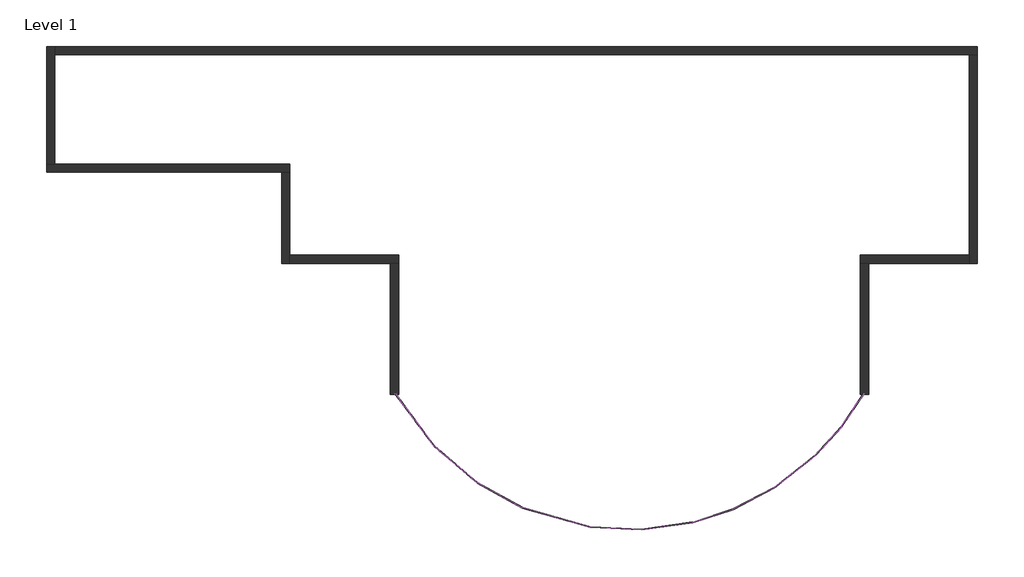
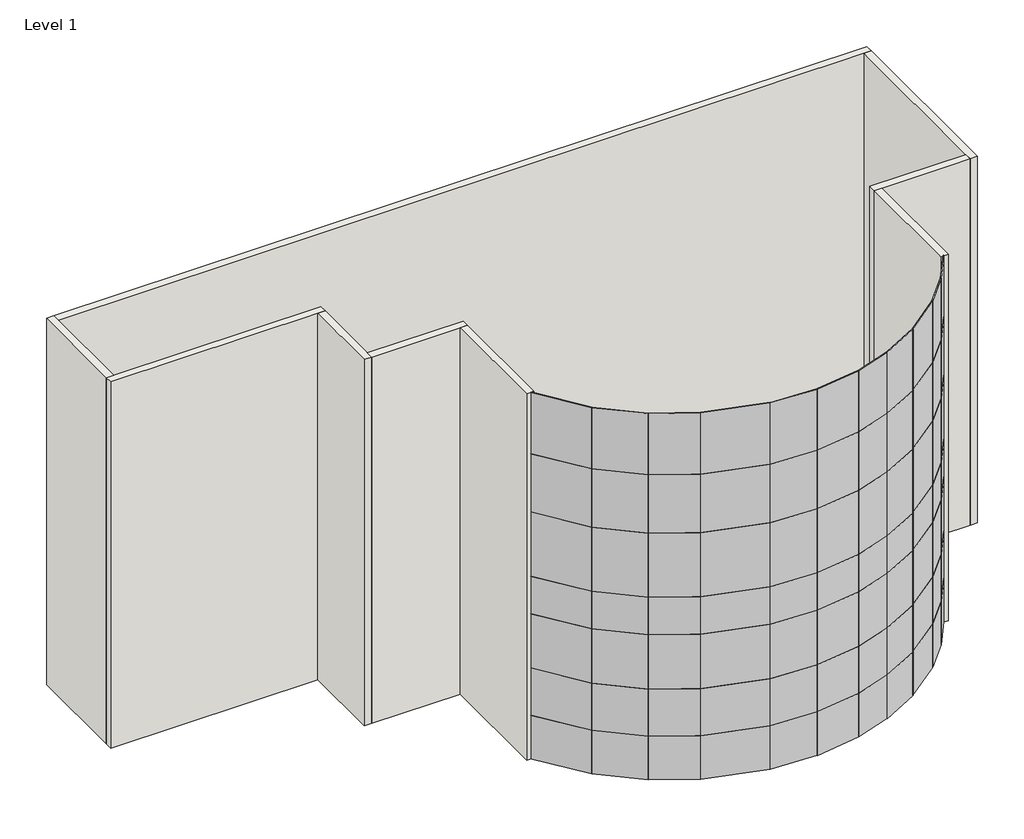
# One storey: 77 plates, 9 walls.
"""IFC4 building model written with IfcOpenShell, lengths in millimetres."""

from ifc_helpers import new_model, si_unit, origin, origin_with_axes, place, context, project, spatial, polyline, outline, extrude, faceted_brep, transform, mapped, element, save
from components import system_panel_glazed_bb45afea, system_panel_glazed_f9cea265, system_panel_glazed_833e7854, system_panel_glazed_2fae776c, system_panel_glazed_bf2f9530, system_panel_glazed_f9ccef27, system_panel_glazed_bc2bb54a, system_panel_glazed_4c331233, system_panel_glazed_691c7578, system_panel_glazed_ef6396a6, system_panel_glazed_fbe8b064, system_panel_glazed_546f7082, system_panel_glazed_d335b26f, system_panel_glazed_3dcc306c, system_panel_glazed_ff5a1f4d, system_panel_glazed_1fb8dec9, system_panel_glazed_2a972b71, system_panel_glazed_399a5d6c, system_panel_glazed_5628729f, system_panel_glazed_b06318d8, system_panel_glazed_cbd1a98d, system_panel_glazed_c423431e, system_panel_glazed_89920602, system_panel_glazed_b366bfc2, system_panel_glazed_a79b9b6a, system_panel_glazed_b8570ad5, system_panel_glazed_4d1e0b4b, system_panel_glazed_00ad768a, system_panel_glazed_f666e3da, system_panel_glazed_8b8a1f57, system_panel_glazed_1889c2f3, system_panel_glazed_4097dd18, system_panel_glazed_4036181e, system_panel_glazed_9c5fd395, system_panel_glazed_11f76c51, system_panel_glazed_d1cd8156, system_panel_glazed_77f58310, system_panel_glazed_f9e88ba5, system_panel_glazed_67a76392, system_panel_glazed_b6d08e3c, system_panel_glazed_613470c2, system_panel_glazed_6823b24f, system_panel_glazed_34dd8236, system_panel_glazed_7db8ac78, system_panel_glazed_592a9e6c, system_panel_glazed_ab2ade44, system_panel_glazed_aa5f2bbc, system_panel_glazed_d557d0fe, system_panel_glazed_53bade5f

model = new_model("IFC4")

# Units and contexts
model_context = context("Model", 3, world=origin())
ifc_project = project(units=[si_unit("LENGTHUNIT", "METRE", prefix="MILLI")], contexts=[model_context])

# Site, building, storey
site = spatial("IfcSite", under=ifc_project)
building = spatial("IfcBuilding", under=site)
storey = spatial("IfcBuildingStorey", under=building, Name="Level 1", Elevation=0.0)

# Plates
placement = place(None, origin())
system_panel_glazed_shape = system_panel_glazed_bb45afea(model_context)
element("IfcPlate", 1, ObjectType="System Panel : Glazed", at=placement, inside=storey, context=model_context, shape_type="MappedRepresentation", body=[
    mapped(system_panel_glazed_shape, transform((-7338.8724307, 2313.0424257, 0.0), x_axis=(0.5960257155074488, -0.8029653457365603, 0.0), y_axis=(0.8029653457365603, 0.5960257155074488, 0.0), z_axis=(0.0, 0.0, 1.0))),
])
system_panel_glazed_2_shape = system_panel_glazed_f9cea265(model_context)
element("IfcPlate", 2, ObjectType="System Panel : Glazed", at=placement, inside=storey, context=model_context, shape_type="MappedRepresentation", body=[
    mapped(system_panel_glazed_2_shape, transform((-5898.315456, 745.668343, 0.0), x_axis=(0.7613775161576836, -0.6483087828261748, 0.0), y_axis=(0.6483087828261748, 0.7613775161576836, 0.0), z_axis=(0.0, 0.0, 1.0))),
])
system_panel_glazed_3_shape = system_panel_glazed_833e7854(model_context)
element("IfcPlate", 3, ObjectType="System Panel : Glazed", at=placement, inside=storey, context=model_context, shape_type="MappedRepresentation", body=[
    mapped(system_panel_glazed_3_shape, transform((-4351.192206, -334.1904169, 0.0), x_axis=(0.8753446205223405, -0.4834995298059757, 0.0), y_axis=(0.4834995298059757, 0.8753446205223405, 0.0), z_axis=(0.0, 0.0, 1.0))),
])
element("IfcPlate", 4, ObjectType="System Panel : Glazed", at=placement, inside=storey, context=model_context, shape_type="MappedRepresentation", body=[
    mapped(system_panel_glazed_3_shape, transform((-275.5873757, -1496.2500687, 0.0), x_axis=(0.9987067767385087, -0.05084067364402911, 0.0), y_axis=(0.05084067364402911, 0.9987067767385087, 0.0), z_axis=(0.0, 0.0, 1.0))),
])
element("IfcPlate", 5, ObjectType="System Panel : Glazed", at=placement, inside=storey, context=model_context, shape_type="MappedRepresentation", body=[
    mapped(system_panel_glazed_3_shape, transform((1528.2895781, -1414.7848699, 0.0), x_axis=(0.9900585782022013, 0.14065564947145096, 0.0), y_axis=(-0.14065564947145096, 0.9900585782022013, 0.0), z_axis=(0.0, 0.0, 1.0))),
])
element("IfcPlate", 6, ObjectType="System Panel : Glazed", at=placement, inside=storey, context=model_context, shape_type="MappedRepresentation", body=[
    mapped(system_panel_glazed_3_shape, transform((6013.9065485, 497.1779435, 0.0), x_axis=(0.7870880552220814, 0.6168406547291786, 0.0), y_axis=(-0.6168406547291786, 0.7870880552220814, 0.0), z_axis=(0.0, 0.0, 1.0))),
])
system_panel_glazed_4_shape = system_panel_glazed_2fae776c(model_context)
element("IfcPlate", 7, ObjectType="System Panel : Glazed", at=placement, inside=storey, context=model_context, shape_type="MappedRepresentation", body=[
    mapped(system_panel_glazed_4_shape, transform((-2369.3365998, -1111.4382978, 0.0), x_axis=(0.9616733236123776, -0.27419777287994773, 0.0), y_axis=(0.27419777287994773, 0.9616733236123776, 0.0), z_axis=(0.0, 0.0, 1.0))),
])
system_panel_glazed_5_shape = system_panel_glazed_bf2f9530(model_context)
element("IfcPlate", 8, ObjectType="System Panel : Glazed", at=placement, inside=storey, context=model_context, shape_type="MappedRepresentation", body=[
    mapped(system_panel_glazed_5_shape, transform((3132.1167468, -1056.7047118, 0.0), x_axis=(0.9505927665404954, 0.31044064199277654, 0.0), y_axis=(-0.31044064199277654, 0.9505927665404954, 0.0), z_axis=(0.0, 0.0, 1.0))),
])
system_panel_glazed_6_shape = system_panel_glazed_f9ccef27(model_context)
element("IfcPlate", 9, ObjectType="System Panel : Glazed", at=placement, inside=storey, context=model_context, shape_type="MappedRepresentation", body=[
    mapped(system_panel_glazed_6_shape, transform((4568.9593981, -444.2605963, 0.0), x_axis=(0.8863184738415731, 0.46307619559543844, 0.0), y_axis=(-0.46307619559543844, 0.8863184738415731, 0.0), z_axis=(0.0, 0.0, 1.0))),
])
system_panel_glazed_7_shape = system_panel_glazed_bc2bb54a(model_context)
element("IfcPlate", 10, ObjectType="System Panel : Glazed", at=placement, inside=storey, context=model_context, shape_type="MappedRepresentation", body=[
    mapped(system_panel_glazed_7_shape, transform((7194.2331387, 1570.9249341, 0.0), x_axis=(0.6718124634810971, 0.7407212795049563, 0.0), y_axis=(-0.7407212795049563, 0.6718124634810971, 0.0), z_axis=(0.0, 0.0, 1.0))),
])
element("IfcPlate", 11, ObjectType="System Panel : Glazed", at=placement, inside=storey, context=model_context, shape_type="MappedRepresentation", body=[
    mapped(system_panel_glazed_7_shape, transform((8046.7856586, 2662.1423978, 0.0), x_axis=(0.5561925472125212, 0.8310534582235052, 0.0), y_axis=(-0.8310534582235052, 0.5561925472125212, 0.0), z_axis=(0.0, 0.0, 1.0))),
])
system_panel_glazed_8_shape = system_panel_glazed_4c331233(model_context)
element("IfcPlate", 12, ObjectType="System Panel : Glazed", at=placement, inside=storey, context=model_context, shape_type="MappedRepresentation", body=[
    mapped(system_panel_glazed_8_shape, transform((-7338.8724307, 2313.0424257, 1828.8), x_axis=(0.5960257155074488, -0.8029653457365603, 0.0), y_axis=(0.8029653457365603, 0.5960257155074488, 0.0), z_axis=(0.0, 0.0, 1.0))),
])
system_panel_glazed_9_shape = system_panel_glazed_691c7578(model_context)
element("IfcPlate", 13, ObjectType="System Panel : Glazed", at=placement, inside=storey, context=model_context, shape_type="MappedRepresentation", body=[
    mapped(system_panel_glazed_9_shape, transform((-5898.315456, 745.668343, 1828.8), x_axis=(0.7613775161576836, -0.648308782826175, 0.0), y_axis=(0.648308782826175, 0.7613775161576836, 0.0), z_axis=(0.0, 0.0, 1.0))),
])
system_panel_glazed_10_shape = system_panel_glazed_ef6396a6(model_context)
element("IfcPlate", 14, ObjectType="System Panel : Glazed", at=placement, inside=storey, context=model_context, shape_type="MappedRepresentation", body=[
    mapped(system_panel_glazed_10_shape, transform((-4351.192206, -334.1904169, 1828.8), x_axis=(0.8753446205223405, -0.4834995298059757, 0.0), y_axis=(0.4834995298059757, 0.8753446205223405, 0.0), z_axis=(0.0, 0.0, 1.0))),
])
element("IfcPlate", 15, ObjectType="System Panel : Glazed", at=placement, inside=storey, context=model_context, shape_type="MappedRepresentation", body=[
    mapped(system_panel_glazed_10_shape, transform((-275.5873757, -1496.2500687, 1828.8), x_axis=(0.9987067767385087, -0.050840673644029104, 0.0), y_axis=(0.050840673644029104, 0.9987067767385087, 0.0), z_axis=(0.0, 0.0, 1.0))),
])
element("IfcPlate", 16, ObjectType="System Panel : Glazed", at=placement, inside=storey, context=model_context, shape_type="MappedRepresentation", body=[
    mapped(system_panel_glazed_10_shape, transform((1528.2895781, -1414.7848699, 1828.8), x_axis=(0.9900585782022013, 0.14065564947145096, 0.0), y_axis=(-0.14065564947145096, 0.9900585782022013, 0.0), z_axis=(0.0, 0.0, 1.0))),
])
element("IfcPlate", 17, ObjectType="System Panel : Glazed", at=placement, inside=storey, context=model_context, shape_type="MappedRepresentation", body=[
    mapped(system_panel_glazed_10_shape, transform((6013.9065485, 497.1779435, 1828.8), x_axis=(0.7870880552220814, 0.6168406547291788, 0.0), y_axis=(-0.6168406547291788, 0.7870880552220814, 0.0), z_axis=(0.0, 0.0, 1.0))),
])
system_panel_glazed_11_shape = system_panel_glazed_fbe8b064(model_context)
element("IfcPlate", 18, ObjectType="System Panel : Glazed", at=placement, inside=storey, context=model_context, shape_type="MappedRepresentation", body=[
    mapped(system_panel_glazed_11_shape, transform((-2369.3365998, -1111.4382978, 1828.8), x_axis=(0.9616733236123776, -0.27419777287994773, 0.0), y_axis=(0.27419777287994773, 0.9616733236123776, 0.0), z_axis=(0.0, 0.0, 1.0))),
])
system_panel_glazed_12_shape = system_panel_glazed_546f7082(model_context)
element("IfcPlate", 19, ObjectType="System Panel : Glazed", at=placement, inside=storey, context=model_context, shape_type="MappedRepresentation", body=[
    mapped(system_panel_glazed_12_shape, transform((3132.1167468, -1056.7047118, 1828.8), x_axis=(0.9505927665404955, 0.3104406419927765, 0.0), y_axis=(-0.3104406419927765, 0.9505927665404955, 0.0), z_axis=(0.0, 0.0, 1.0))),
])
system_panel_glazed_13_shape = system_panel_glazed_d335b26f(model_context)
element("IfcPlate", 20, ObjectType="System Panel : Glazed", at=placement, inside=storey, context=model_context, shape_type="MappedRepresentation", body=[
    mapped(system_panel_glazed_13_shape, transform((4568.9593981, -444.2605963, 1828.8), x_axis=(0.8863184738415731, 0.4630761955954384, 0.0), y_axis=(-0.4630761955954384, 0.8863184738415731, 0.0), z_axis=(0.0, 0.0, 1.0))),
])
system_panel_glazed_14_shape = system_panel_glazed_3dcc306c(model_context)
element("IfcPlate", 21, ObjectType="System Panel : Glazed", at=placement, inside=storey, context=model_context, shape_type="MappedRepresentation", body=[
    mapped(system_panel_glazed_14_shape, transform((7194.2331387, 1570.9249341, 1828.8), x_axis=(0.6718124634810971, 0.7407212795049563, 0.0), y_axis=(-0.7407212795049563, 0.6718124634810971, 0.0), z_axis=(0.0, 0.0, 1.0))),
])
element("IfcPlate", 22, ObjectType="System Panel : Glazed", at=placement, inside=storey, context=model_context, shape_type="MappedRepresentation", body=[
    mapped(system_panel_glazed_14_shape, transform((8046.7856586, 2662.1423978, 1828.8), x_axis=(0.5561925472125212, 0.8310534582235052, 0.0), y_axis=(-0.8310534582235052, 0.5561925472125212, 0.0), z_axis=(0.0, 0.0, 1.0))),
])
system_panel_glazed_15_shape = system_panel_glazed_ff5a1f4d(model_context)
element("IfcPlate", 23, ObjectType="System Panel : Glazed", at=placement, inside=storey, context=model_context, shape_type="MappedRepresentation", body=[
    mapped(system_panel_glazed_15_shape, transform((-7338.8724307, 2313.0424257, 3810.0), x_axis=(0.5960257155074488, -0.8029653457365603, 0.0), y_axis=(0.8029653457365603, 0.5960257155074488, 0.0), z_axis=(0.0, 0.0, 1.0))),
])
system_panel_glazed_16_shape = system_panel_glazed_1fb8dec9(model_context)
element("IfcPlate", 24, ObjectType="System Panel : Glazed", at=placement, inside=storey, context=model_context, shape_type="MappedRepresentation", body=[
    mapped(system_panel_glazed_16_shape, transform((-5898.315456, 745.668343, 3810.0), x_axis=(0.7613775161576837, -0.6483087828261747, 0.0), y_axis=(0.6483087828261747, 0.7613775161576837, 0.0), z_axis=(0.0, 0.0, 1.0))),
])
system_panel_glazed_17_shape = system_panel_glazed_2a972b71(model_context)
element("IfcPlate", 25, ObjectType="System Panel : Glazed", at=placement, inside=storey, context=model_context, shape_type="MappedRepresentation", body=[
    mapped(system_panel_glazed_17_shape, transform((-4351.192206, -334.1904169, 3810.0), x_axis=(0.8753446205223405, -0.48349952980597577, 0.0), y_axis=(0.48349952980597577, 0.8753446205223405, 0.0), z_axis=(0.0, 0.0, 1.0))),
])
element("IfcPlate", 26, ObjectType="System Panel : Glazed", at=placement, inside=storey, context=model_context, shape_type="MappedRepresentation", body=[
    mapped(system_panel_glazed_17_shape, transform((-275.5873757, -1496.2500687, 3810.0), x_axis=(0.9987067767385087, -0.05084067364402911, 0.0), y_axis=(0.05084067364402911, 0.9987067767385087, 0.0), z_axis=(0.0, 0.0, 1.0))),
])
element("IfcPlate", 27, ObjectType="System Panel : Glazed", at=placement, inside=storey, context=model_context, shape_type="MappedRepresentation", body=[
    mapped(system_panel_glazed_17_shape, transform((1528.2895781, -1414.7848699, 3810.0), x_axis=(0.9900585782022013, 0.14065564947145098, 0.0), y_axis=(-0.14065564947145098, 0.9900585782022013, 0.0), z_axis=(0.0, 0.0, 1.0))),
])
element("IfcPlate", 28, ObjectType="System Panel : Glazed", at=placement, inside=storey, context=model_context, shape_type="MappedRepresentation", body=[
    mapped(system_panel_glazed_17_shape, transform((6013.9065485, 497.1779435, 3810.0), x_axis=(0.7870880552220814, 0.6168406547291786, 0.0), y_axis=(-0.6168406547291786, 0.7870880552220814, 0.0), z_axis=(0.0, 0.0, 1.0))),
])
system_panel_glazed_18_shape = system_panel_glazed_399a5d6c(model_context)
element("IfcPlate", 29, ObjectType="System Panel : Glazed", at=placement, inside=storey, context=model_context, shape_type="MappedRepresentation", body=[
    mapped(system_panel_glazed_18_shape, transform((-2369.3365998, -1111.4382978, 3810.0), x_axis=(0.9616733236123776, -0.27419777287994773, 0.0), y_axis=(0.27419777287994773, 0.9616733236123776, 0.0), z_axis=(0.0, 0.0, 1.0))),
])
system_panel_glazed_19_shape = system_panel_glazed_5628729f(model_context)
element("IfcPlate", 30, ObjectType="System Panel : Glazed", at=placement, inside=storey, context=model_context, shape_type="MappedRepresentation", body=[
    mapped(system_panel_glazed_19_shape, transform((3132.1167468, -1056.7047118, 3810.0), x_axis=(0.9505927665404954, 0.3104406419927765, 0.0), y_axis=(-0.3104406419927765, 0.9505927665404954, 0.0), z_axis=(0.0, 0.0, 1.0))),
])
system_panel_glazed_20_shape = system_panel_glazed_b06318d8(model_context)
element("IfcPlate", 31, ObjectType="System Panel : Glazed", at=placement, inside=storey, context=model_context, shape_type="MappedRepresentation", body=[
    mapped(system_panel_glazed_20_shape, transform((4568.9593981, -444.2605963, 3810.0), x_axis=(0.8863184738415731, 0.46307619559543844, 0.0), y_axis=(-0.46307619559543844, 0.8863184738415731, 0.0), z_axis=(0.0, 0.0, 1.0))),
])
system_panel_glazed_21_shape = system_panel_glazed_cbd1a98d(model_context)
element("IfcPlate", 32, ObjectType="System Panel : Glazed", at=placement, inside=storey, context=model_context, shape_type="MappedRepresentation", body=[
    mapped(system_panel_glazed_21_shape, transform((7194.2331387, 1570.9249341, 3810.0), x_axis=(0.6718124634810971, 0.7407212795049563, 0.0), y_axis=(-0.7407212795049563, 0.6718124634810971, 0.0), z_axis=(0.0, 0.0, 1.0))),
])
element("IfcPlate", 33, ObjectType="System Panel : Glazed", at=placement, inside=storey, context=model_context, shape_type="MappedRepresentation", body=[
    mapped(system_panel_glazed_21_shape, transform((8046.7856586, 2662.1423978, 3810.0), x_axis=(0.5561925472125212, 0.8310534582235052, 0.0), y_axis=(-0.8310534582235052, 0.5561925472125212, 0.0), z_axis=(0.0, 0.0, 1.0))),
])
system_panel_glazed_22_shape = system_panel_glazed_c423431e(model_context)
element("IfcPlate", 34, ObjectType="System Panel : Glazed", at=placement, inside=storey, context=model_context, shape_type="MappedRepresentation", body=[
    mapped(system_panel_glazed_22_shape, transform((-7338.8724307, 2313.0424257, 6096.0), x_axis=(0.5960257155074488, -0.8029653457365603, 0.0), y_axis=(0.8029653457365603, 0.5960257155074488, 0.0), z_axis=(0.0, 0.0, 1.0))),
])
system_panel_glazed_23_shape = system_panel_glazed_89920602(model_context)
element("IfcPlate", 35, ObjectType="System Panel : Glazed", at=placement, inside=storey, context=model_context, shape_type="MappedRepresentation", body=[
    mapped(system_panel_glazed_23_shape, transform((-5898.315456, 745.668343, 6096.0), x_axis=(0.7613775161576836, -0.6483087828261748, 0.0), y_axis=(0.6483087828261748, 0.7613775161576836, 0.0), z_axis=(0.0, 0.0, 1.0))),
])
system_panel_glazed_24_shape = system_panel_glazed_b366bfc2(model_context)
element("IfcPlate", 36, ObjectType="System Panel : Glazed", at=placement, inside=storey, context=model_context, shape_type="MappedRepresentation", body=[
    mapped(system_panel_glazed_24_shape, transform((-4351.192206, -334.1904169, 6096.0), x_axis=(0.8753446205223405, -0.4834995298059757, 0.0), y_axis=(0.4834995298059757, 0.8753446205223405, 0.0), z_axis=(0.0, 0.0, 1.0))),
])
element("IfcPlate", 37, ObjectType="System Panel : Glazed", at=placement, inside=storey, context=model_context, shape_type="MappedRepresentation", body=[
    mapped(system_panel_glazed_24_shape, transform((-275.5873757, -1496.2500687, 6096.0), x_axis=(0.9987067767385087, -0.050840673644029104, 0.0), y_axis=(0.050840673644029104, 0.9987067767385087, 0.0), z_axis=(0.0, 0.0, 1.0))),
])
element("IfcPlate", 38, ObjectType="System Panel : Glazed", at=placement, inside=storey, context=model_context, shape_type="MappedRepresentation", body=[
    mapped(system_panel_glazed_24_shape, transform((1528.2895781, -1414.7848699, 6096.0), x_axis=(0.9900585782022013, 0.14065564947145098, 0.0), y_axis=(-0.14065564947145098, 0.9900585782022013, 0.0), z_axis=(0.0, 0.0, 1.0))),
])
element("IfcPlate", 39, ObjectType="System Panel : Glazed", at=placement, inside=storey, context=model_context, shape_type="MappedRepresentation", body=[
    mapped(system_panel_glazed_24_shape, transform((6013.9065485, 497.1779435, 6096.0), x_axis=(0.7870880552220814, 0.6168406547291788, 0.0), y_axis=(-0.6168406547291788, 0.7870880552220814, 0.0), z_axis=(0.0, 0.0, 1.0))),
])
system_panel_glazed_25_shape = system_panel_glazed_a79b9b6a(model_context)
element("IfcPlate", 40, ObjectType="System Panel : Glazed", at=placement, inside=storey, context=model_context, shape_type="MappedRepresentation", body=[
    mapped(system_panel_glazed_25_shape, transform((-2369.3365998, -1111.4382978, 6096.0), x_axis=(0.9616733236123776, -0.27419777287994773, 0.0), y_axis=(0.27419777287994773, 0.9616733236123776, 0.0), z_axis=(0.0, 0.0, 1.0))),
])
system_panel_glazed_26_shape = system_panel_glazed_b8570ad5(model_context)
element("IfcPlate", 41, ObjectType="System Panel : Glazed", at=placement, inside=storey, context=model_context, shape_type="MappedRepresentation", body=[
    mapped(system_panel_glazed_26_shape, transform((3132.1167468, -1056.7047118, 6096.0), x_axis=(0.9505927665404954, 0.3104406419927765, 0.0), y_axis=(-0.3104406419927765, 0.9505927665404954, 0.0), z_axis=(0.0, 0.0, 1.0))),
])
system_panel_glazed_27_shape = system_panel_glazed_4d1e0b4b(model_context)
element("IfcPlate", 42, ObjectType="System Panel : Glazed", at=placement, inside=storey, context=model_context, shape_type="MappedRepresentation", body=[
    mapped(system_panel_glazed_27_shape, transform((4568.9593981, -444.2605963, 6096.0), x_axis=(0.8863184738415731, 0.46307619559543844, 0.0), y_axis=(-0.46307619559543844, 0.8863184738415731, 0.0), z_axis=(0.0, 0.0, 1.0))),
])
system_panel_glazed_28_shape = system_panel_glazed_00ad768a(model_context)
element("IfcPlate", 43, ObjectType="System Panel : Glazed", at=placement, inside=storey, context=model_context, shape_type="MappedRepresentation", body=[
    mapped(system_panel_glazed_28_shape, transform((7194.2331387, 1570.9249341, 6096.0), x_axis=(0.6718124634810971, 0.7407212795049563, 0.0), y_axis=(-0.7407212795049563, 0.6718124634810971, 0.0), z_axis=(0.0, 0.0, 1.0))),
])
element("IfcPlate", 44, ObjectType="System Panel : Glazed", at=placement, inside=storey, context=model_context, shape_type="MappedRepresentation", body=[
    mapped(system_panel_glazed_28_shape, transform((8046.7856586, 2662.1423978, 6096.0), x_axis=(0.5561925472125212, 0.8310534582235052, 0.0), y_axis=(-0.8310534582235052, 0.5561925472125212, 0.0), z_axis=(0.0, 0.0, 1.0))),
])
system_panel_glazed_29_shape = system_panel_glazed_f666e3da(model_context)
element("IfcPlate", 45, ObjectType="System Panel : Glazed", at=placement, inside=storey, context=model_context, shape_type="MappedRepresentation", body=[
    mapped(system_panel_glazed_29_shape, transform((-7338.8724307, 2313.0424257, 7670.8), x_axis=(0.5960257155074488, -0.8029653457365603, 0.0), y_axis=(0.8029653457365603, 0.5960257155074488, 0.0), z_axis=(0.0, 0.0, 1.0))),
])
system_panel_glazed_30_shape = system_panel_glazed_8b8a1f57(model_context)
element("IfcPlate", 46, ObjectType="System Panel : Glazed", at=placement, inside=storey, context=model_context, shape_type="MappedRepresentation", body=[
    mapped(system_panel_glazed_30_shape, transform((-5898.315456, 745.668343, 7670.8), x_axis=(0.7613775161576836, -0.6483087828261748, 0.0), y_axis=(0.6483087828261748, 0.7613775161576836, 0.0), z_axis=(0.0, 0.0, 1.0))),
])
system_panel_glazed_31_shape = system_panel_glazed_1889c2f3(model_context)
element("IfcPlate", 47, ObjectType="System Panel : Glazed", at=placement, inside=storey, context=model_context, shape_type="MappedRepresentation", body=[
    mapped(system_panel_glazed_31_shape, transform((-4351.192206, -334.1904169, 7670.8), x_axis=(0.8753446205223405, -0.4834995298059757, 0.0), y_axis=(0.4834995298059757, 0.8753446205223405, 0.0), z_axis=(0.0, 0.0, 1.0))),
])
element("IfcPlate", 48, ObjectType="System Panel : Glazed", at=placement, inside=storey, context=model_context, shape_type="MappedRepresentation", body=[
    mapped(system_panel_glazed_31_shape, transform((-275.5873757, -1496.2500687, 7670.8), x_axis=(0.9987067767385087, -0.050840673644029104, 0.0), y_axis=(0.050840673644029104, 0.9987067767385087, 0.0), z_axis=(0.0, 0.0, 1.0))),
])
element("IfcPlate", 49, ObjectType="System Panel : Glazed", at=placement, inside=storey, context=model_context, shape_type="MappedRepresentation", body=[
    mapped(system_panel_glazed_31_shape, transform((1528.2895781, -1414.7848699, 7670.8), x_axis=(0.9900585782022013, 0.140655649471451, 0.0), y_axis=(-0.140655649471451, 0.9900585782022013, 0.0), z_axis=(0.0, 0.0, 1.0))),
])
element("IfcPlate", 50, ObjectType="System Panel : Glazed", at=placement, inside=storey, context=model_context, shape_type="MappedRepresentation", body=[
    mapped(system_panel_glazed_31_shape, transform((6013.9065485, 497.1779435, 7670.8), x_axis=(0.7870880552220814, 0.6168406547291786, 0.0), y_axis=(-0.6168406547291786, 0.7870880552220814, 0.0), z_axis=(0.0, 0.0, 1.0))),
])
system_panel_glazed_32_shape = system_panel_glazed_4097dd18(model_context)
element("IfcPlate", 51, ObjectType="System Panel : Glazed", at=placement, inside=storey, context=model_context, shape_type="MappedRepresentation", body=[
    mapped(system_panel_glazed_32_shape, transform((-2369.3365998, -1111.4382978, 7670.8), x_axis=(0.9616733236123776, -0.27419777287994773, 0.0), y_axis=(0.27419777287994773, 0.9616733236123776, 0.0), z_axis=(0.0, 0.0, 1.0))),
])
system_panel_glazed_33_shape = system_panel_glazed_4036181e(model_context)
element("IfcPlate", 52, ObjectType="System Panel : Glazed", at=placement, inside=storey, context=model_context, shape_type="MappedRepresentation", body=[
    mapped(system_panel_glazed_33_shape, transform((3132.1167468, -1056.7047118, 7670.8), x_axis=(0.9505927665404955, 0.3104406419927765, 0.0), y_axis=(-0.3104406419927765, 0.9505927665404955, 0.0), z_axis=(0.0, 0.0, 1.0))),
])
system_panel_glazed_34_shape = system_panel_glazed_9c5fd395(model_context)
element("IfcPlate", 53, ObjectType="System Panel : Glazed", at=placement, inside=storey, context=model_context, shape_type="MappedRepresentation", body=[
    mapped(system_panel_glazed_34_shape, transform((4568.9593981, -444.2605963, 7670.8), x_axis=(0.8863184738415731, 0.46307619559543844, 0.0), y_axis=(-0.46307619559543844, 0.8863184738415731, 0.0), z_axis=(0.0, 0.0, 1.0))),
])
system_panel_glazed_35_shape = system_panel_glazed_11f76c51(model_context)
element("IfcPlate", 54, ObjectType="System Panel : Glazed", at=placement, inside=storey, context=model_context, shape_type="MappedRepresentation", body=[
    mapped(system_panel_glazed_35_shape, transform((7194.2331387, 1570.9249341, 7670.8), x_axis=(0.6718124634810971, 0.7407212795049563, 0.0), y_axis=(-0.7407212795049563, 0.6718124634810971, 0.0), z_axis=(0.0, 0.0, 1.0))),
])
element("IfcPlate", 55, ObjectType="System Panel : Glazed", at=placement, inside=storey, context=model_context, shape_type="MappedRepresentation", body=[
    mapped(system_panel_glazed_35_shape, transform((8046.7856586, 2662.1423978, 7670.8), x_axis=(0.5561925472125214, 0.8310534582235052, 0.0), y_axis=(-0.8310534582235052, 0.5561925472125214, 0.0), z_axis=(0.0, 0.0, 1.0))),
])
system_panel_glazed_36_shape = system_panel_glazed_d1cd8156(model_context)
element("IfcPlate", 56, ObjectType="System Panel : Glazed", at=placement, inside=storey, context=model_context, shape_type="MappedRepresentation", body=[
    mapped(system_panel_glazed_36_shape, transform((-7338.8724307, 2313.0424257, 10363.2), x_axis=(0.5960257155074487, -0.8029653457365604, 0.0), y_axis=(0.8029653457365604, 0.5960257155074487, 0.0), z_axis=(0.0, 0.0, 1.0))),
])
system_panel_glazed_37_shape = system_panel_glazed_77f58310(model_context)
element("IfcPlate", 57, ObjectType="System Panel : Glazed", at=placement, inside=storey, context=model_context, shape_type="MappedRepresentation", body=[
    mapped(system_panel_glazed_37_shape, transform((-5898.315456, 745.668343, 10363.2), x_axis=(0.7613775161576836, -0.6483087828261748, 0.0), y_axis=(0.6483087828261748, 0.7613775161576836, 0.0), z_axis=(0.0, 0.0, 1.0))),
])
system_panel_glazed_38_shape = system_panel_glazed_f9e88ba5(model_context)
element("IfcPlate", 58, ObjectType="System Panel : Glazed", at=placement, inside=storey, context=model_context, shape_type="MappedRepresentation", body=[
    mapped(system_panel_glazed_38_shape, transform((-4351.192206, -334.1904169, 10363.2), x_axis=(0.8753446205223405, -0.48349952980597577, 0.0), y_axis=(0.48349952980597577, 0.8753446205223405, 0.0), z_axis=(0.0, 0.0, 1.0))),
])
element("IfcPlate", 59, ObjectType="System Panel : Glazed", at=placement, inside=storey, context=model_context, shape_type="MappedRepresentation", body=[
    mapped(system_panel_glazed_38_shape, transform((-275.5873757, -1496.2500687, 10363.2), x_axis=(0.9987067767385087, -0.05084067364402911, 0.0), y_axis=(0.05084067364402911, 0.9987067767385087, 0.0), z_axis=(0.0, 0.0, 1.0))),
])
element("IfcPlate", 60, ObjectType="System Panel : Glazed", at=placement, inside=storey, context=model_context, shape_type="MappedRepresentation", body=[
    mapped(system_panel_glazed_38_shape, transform((1528.2895781, -1414.7848699, 10363.2), x_axis=(0.9900585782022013, 0.14065564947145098, 0.0), y_axis=(-0.14065564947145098, 0.9900585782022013, 0.0), z_axis=(0.0, 0.0, 1.0))),
])
element("IfcPlate", 61, ObjectType="System Panel : Glazed", at=placement, inside=storey, context=model_context, shape_type="MappedRepresentation", body=[
    mapped(system_panel_glazed_38_shape, transform((6013.9065485, 497.1779435, 10363.2), x_axis=(0.7870880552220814, 0.6168406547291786, 0.0), y_axis=(-0.6168406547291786, 0.7870880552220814, 0.0), z_axis=(0.0, 0.0, 1.0))),
])
system_panel_glazed_39_shape = system_panel_glazed_67a76392(model_context)
element("IfcPlate", 62, ObjectType="System Panel : Glazed", at=placement, inside=storey, context=model_context, shape_type="MappedRepresentation", body=[
    mapped(system_panel_glazed_39_shape, transform((-2369.3365998, -1111.4382978, 10363.2), x_axis=(0.9616733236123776, -0.27419777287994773, 0.0), y_axis=(0.27419777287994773, 0.9616733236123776, 0.0), z_axis=(0.0, 0.0, 1.0))),
])
system_panel_glazed_40_shape = system_panel_glazed_b6d08e3c(model_context)
element("IfcPlate", 63, ObjectType="System Panel : Glazed", at=placement, inside=storey, context=model_context, shape_type="MappedRepresentation", body=[
    mapped(system_panel_glazed_40_shape, transform((3132.1167468, -1056.7047118, 10363.2), x_axis=(0.9505927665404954, 0.3104406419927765, 0.0), y_axis=(-0.3104406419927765, 0.9505927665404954, 0.0), z_axis=(0.0, 0.0, 1.0))),
])
system_panel_glazed_41_shape = system_panel_glazed_613470c2(model_context)
element("IfcPlate", 64, ObjectType="System Panel : Glazed", at=placement, inside=storey, context=model_context, shape_type="MappedRepresentation", body=[
    mapped(system_panel_glazed_41_shape, transform((4568.9593981, -444.2605963, 10363.2), x_axis=(0.8863184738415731, 0.46307619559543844, 0.0), y_axis=(-0.46307619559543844, 0.8863184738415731, 0.0), z_axis=(0.0, 0.0, 1.0))),
])
system_panel_glazed_42_shape = system_panel_glazed_6823b24f(model_context)
element("IfcPlate", 65, ObjectType="System Panel : Glazed", at=placement, inside=storey, context=model_context, shape_type="MappedRepresentation", body=[
    mapped(system_panel_glazed_42_shape, transform((7194.2331387, 1570.9249341, 10363.2), x_axis=(0.6718124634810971, 0.7407212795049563, 0.0), y_axis=(-0.7407212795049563, 0.6718124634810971, 0.0), z_axis=(0.0, 0.0, 1.0))),
])
element("IfcPlate", 66, ObjectType="System Panel : Glazed", at=placement, inside=storey, context=model_context, shape_type="MappedRepresentation", body=[
    mapped(system_panel_glazed_42_shape, transform((8046.7856586, 2662.1423978, 10363.2), x_axis=(0.5561925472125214, 0.8310534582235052, 0.0), y_axis=(-0.8310534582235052, 0.5561925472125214, 0.0), z_axis=(0.0, 0.0, 1.0))),
])
system_panel_glazed_43_shape = system_panel_glazed_34dd8236(model_context)
element("IfcPlate", 67, ObjectType="System Panel : Glazed", at=placement, inside=storey, context=model_context, shape_type="MappedRepresentation", body=[
    mapped(system_panel_glazed_43_shape, transform((-7338.8724307, 2313.0424257, 12818.5333333), x_axis=(0.5960257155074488, -0.8029653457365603, 0.0), y_axis=(0.8029653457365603, 0.5960257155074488, 0.0), z_axis=(0.0, 0.0, 1.0))),
])
system_panel_glazed_44_shape = system_panel_glazed_7db8ac78(model_context)
element("IfcPlate", 68, ObjectType="System Panel : Glazed", at=placement, inside=storey, context=model_context, shape_type="MappedRepresentation", body=[
    mapped(system_panel_glazed_44_shape, transform((-5898.315456, 745.668343, 12818.5333333), x_axis=(0.7613775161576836, -0.6483087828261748, 0.0), y_axis=(0.6483087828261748, 0.7613775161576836, 0.0), z_axis=(0.0, 0.0, 1.0))),
])
system_panel_glazed_45_shape = system_panel_glazed_592a9e6c(model_context)
element("IfcPlate", 69, ObjectType="System Panel : Glazed", at=placement, inside=storey, context=model_context, shape_type="MappedRepresentation", body=[
    mapped(system_panel_glazed_45_shape, transform((-4351.192206, -334.1904169, 12818.5333333), x_axis=(0.8753446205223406, -0.4834995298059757, 0.0), y_axis=(0.4834995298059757, 0.8753446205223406, 0.0), z_axis=(0.0, 0.0, 1.0))),
])
element("IfcPlate", 70, ObjectType="System Panel : Glazed", at=placement, inside=storey, context=model_context, shape_type="MappedRepresentation", body=[
    mapped(system_panel_glazed_45_shape, transform((-275.5873757, -1496.2500687, 12818.5333333), x_axis=(0.9987067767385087, -0.05084067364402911, 0.0), y_axis=(0.05084067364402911, 0.9987067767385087, 0.0), z_axis=(0.0, 0.0, 1.0))),
])
element("IfcPlate", 71, ObjectType="System Panel : Glazed", at=placement, inside=storey, context=model_context, shape_type="MappedRepresentation", body=[
    mapped(system_panel_glazed_45_shape, transform((1528.2895781, -1414.7848699, 12818.5333333), x_axis=(0.9900585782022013, 0.14065564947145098, 0.0), y_axis=(-0.14065564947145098, 0.9900585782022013, 0.0), z_axis=(0.0, 0.0, 1.0))),
])
element("IfcPlate", 72, ObjectType="System Panel : Glazed", at=placement, inside=storey, context=model_context, shape_type="MappedRepresentation", body=[
    mapped(system_panel_glazed_45_shape, transform((6013.9065485, 497.1779435, 12818.5333333), x_axis=(0.7870880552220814, 0.6168406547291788, 0.0), y_axis=(-0.6168406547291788, 0.7870880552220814, 0.0), z_axis=(0.0, 0.0, 1.0))),
])
system_panel_glazed_46_shape = system_panel_glazed_ab2ade44(model_context)
element("IfcPlate", 73, ObjectType="System Panel : Glazed", at=placement, inside=storey, context=model_context, shape_type="MappedRepresentation", body=[
    mapped(system_panel_glazed_46_shape, transform((-2369.3365998, -1111.4382978, 12818.5333333), x_axis=(0.9616733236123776, -0.27419777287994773, 0.0), y_axis=(0.27419777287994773, 0.9616733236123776, 0.0), z_axis=(0.0, 0.0, 1.0))),
])
system_panel_glazed_47_shape = system_panel_glazed_aa5f2bbc(model_context)
element("IfcPlate", 74, ObjectType="System Panel : Glazed", at=placement, inside=storey, context=model_context, shape_type="MappedRepresentation", body=[
    mapped(system_panel_glazed_47_shape, transform((3132.1167468, -1056.7047118, 12818.5333333), x_axis=(0.9505927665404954, 0.31044064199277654, 0.0), y_axis=(-0.31044064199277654, 0.9505927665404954, 0.0), z_axis=(0.0, 0.0, 1.0))),
])
system_panel_glazed_48_shape = system_panel_glazed_d557d0fe(model_context)
element("IfcPlate", 75, ObjectType="System Panel : Glazed", at=placement, inside=storey, context=model_context, shape_type="MappedRepresentation", body=[
    mapped(system_panel_glazed_48_shape, transform((4568.9593981, -444.2605963, 12818.5333333), x_axis=(0.8863184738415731, 0.46307619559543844, 0.0), y_axis=(-0.46307619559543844, 0.8863184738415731, 0.0), z_axis=(0.0, 0.0, 1.0))),
])
system_panel_glazed_49_shape = system_panel_glazed_53bade5f(model_context)
element("IfcPlate", 76, ObjectType="System Panel : Glazed", at=placement, inside=storey, context=model_context, shape_type="MappedRepresentation", body=[
    mapped(system_panel_glazed_49_shape, transform((7194.2331387, 1570.9249341, 12818.5333333), x_axis=(0.6718124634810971, 0.7407212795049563, 0.0), y_axis=(-0.7407212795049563, 0.6718124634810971, 0.0), z_axis=(0.0, 0.0, 1.0))),
])
element("IfcPlate", 77, ObjectType="System Panel : Glazed", at=placement, inside=storey, context=model_context, shape_type="MappedRepresentation", body=[
    mapped(system_panel_glazed_49_shape, transform((8046.7856586, 2662.1423978, 12818.5333333), x_axis=(0.5561925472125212, 0.8310534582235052, 0.0), y_axis=(-0.8310534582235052, 0.5561925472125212, 0.0), z_axis=(0.0, 0.0, 1.0))),
])

# Walls
element("IfcWall", 78, ObjectType="Generic - 12\" Masonry", at=placement, inside=storey, context=model_context, shape_type="Brep", body=[
    faceted_brep([(-20213.5106176, 11016.2705566, 0.0), (-11983.9106176, 11016.2705566, 0.0), (-11688.6356176, 11016.2705566, 0.0), (-11688.6356176, 11016.2705566, 15392.4), (-11983.9106176, 11016.2705566, 15392.4), (-20213.5106176, 11016.2705566, 15392.4), (-20213.5106176, 11311.5455566, 0.0), (-20213.5106176, 11311.5455566, 15392.4), (-19918.2356176, 11311.5455566, 15392.4), (-11688.6356176, 11311.5455566, 15392.4), (-11688.6356176, 11311.5455566, 0.0), (-19918.2356176, 11311.5455566, 0.0)], [[[0, 1, 2, 3, 4, 5]], [[6, 7, 8, 9, 10, 11]], [[2, 1, 0, 6, 11, 10]], [[5, 4, 3, 9, 8, 7]], [[3, 2, 10, 9]], [[0, 5, 7, 6]]]),
])
element("IfcWall", 79, ObjectType="Generic - 12\" Masonry", at=placement, inside=storey, context=model_context, shape_type="Brep", body=[
    faceted_brep([(-11983.9106176, 11016.2705566, 0.0), (-11983.9106176, 7815.8705566, 0.0), (-11983.9106176, 7815.8705566, 15392.4), (-11983.9106176, 11016.2705566, 15392.4), (-11688.6356176, 11016.2705566, 0.0), (-11688.6356176, 11016.2705566, 15392.4), (-11688.6356176, 8111.1455566, 15392.4), (-11688.6356176, 7815.8705566, 15392.4), (-11688.6356176, 7815.8705566, 0.0), (-11688.6356176, 8111.1455566, 0.0)], [[[0, 1, 2, 3]], [[4, 5, 6, 7, 8, 9]], [[1, 0, 4, 9, 8]], [[3, 2, 7, 6, 5]], [[0, 3, 5, 4]], [[2, 1, 8, 7]]]),
])
element("IfcWall", 80, ObjectType="Generic - 12\" Masonry", at=placement, inside=storey, context=model_context, shape_type="Brep", body=[
    faceted_brep([(-11688.6356176, 7815.8705566, 0.0), (-8173.9106176, 7815.8705566, 0.0), (-7878.6356176, 7815.8705566, 0.0), (-7878.6356176, 7815.8705566, 15392.4), (-8173.9106176, 7815.8705566, 15392.4), (-11688.6356176, 7815.8705566, 15392.4), (-11688.6356176, 8111.1455566, 0.0), (-11688.6356176, 8111.1455566, 15392.4), (-7878.6356176, 8111.1455566, 15392.4), (-7878.6356176, 8111.1455566, 0.0)], [[[0, 1, 2, 3, 4, 5]], [[6, 7, 8, 9]], [[2, 1, 0, 6, 9]], [[5, 4, 3, 8, 7]], [[0, 5, 7, 6]], [[3, 2, 9, 8]]]),
])
element("IfcWall", 81, ObjectType="Generic - 12\" Masonry", at=placement, inside=storey, context=model_context, shape_type="SweptSolid", body=[
    extrude(outline(polyline([(-8173.9106176, 3239.1080566), (-8173.9106176, 7815.8705566), (-7878.6356176, 7815.8705566), (-7878.6356176, 3239.1080566), (-8173.9106176, 3239.1080566)])), origin_with_axes(), (0.0, 0.0, 1.0), 15392.4),
])
element("IfcWall", 82, ObjectType="Generic - 12\" Masonry", at=placement, inside=storey, context=model_context, shape_type="Brep", body=[
    faceted_brep([(12095.2893824, 15131.0705566, 0.0), (12095.2893824, 8111.1455566, 0.0), (12095.2893824, 7815.8705566, 0.0), (12095.2893824, 7815.8705566, 15392.4), (12095.2893824, 8111.1455566, 15392.4), (12095.2893824, 15131.0705566, 15392.4), (12390.5643824, 15131.0705566, 0.0), (12390.5643824, 15131.0705566, 15392.4), (12390.5643824, 7815.8705566, 15392.4), (12390.5643824, 7815.8705566, 0.0)], [[[0, 1, 2, 3, 4, 5]], [[6, 7, 8, 9]], [[2, 1, 0, 6, 9]], [[5, 4, 3, 8, 7]], [[3, 2, 9, 8]], [[0, 5, 7, 6]]]),
])
element("IfcWall", 83, ObjectType="Generic - 12\" Masonry", at=placement, inside=storey, context=model_context, shape_type="Brep", body=[
    faceted_brep([(12095.2893824, 8111.1455566, 0.0), (8285.2893824, 8111.1455566, 0.0), (8285.2893824, 8111.1455566, 15392.4), (12095.2893824, 8111.1455566, 15392.4), (12095.2893824, 7815.8705566, 0.0), (12095.2893824, 7815.8705566, 15392.4), (8580.5643824, 7815.8705566, 15392.4), (8285.2893824, 7815.8705566, 15392.4), (8285.2893824, 7815.8705566, 0.0), (8580.5643824, 7815.8705566, 0.0)], [[[0, 1, 2, 3]], [[4, 5, 6, 7, 8, 9]], [[1, 0, 4, 9, 8]], [[3, 2, 7, 6, 5]], [[0, 3, 5, 4]], [[2, 1, 8, 7]]]),
])
element("IfcWall", 84, ObjectType="Generic - 12\" Masonry", at=placement, inside=storey, context=model_context, shape_type="SweptSolid", body=[
    extrude(outline(polyline([(8285.2893824, 3239.1080566), (8285.2893824, 7815.8705566), (8580.5643824, 7815.8705566), (8580.5643824, 3239.1080566), (8285.2893824, 3239.1080566)])), origin_with_axes(), (0.0, 0.0, 1.0), 15392.4),
])
element("IfcWall", 85, ObjectType="Generic - 12\" Masonry", at=placement, inside=storey, context=model_context, shape_type="Brep", body=[
    faceted_brep([(-19918.2356176, 11311.5455566, 0.0), (-19918.2356176, 15131.0705566, 0.0), (-19918.2356176, 15426.3455566, 0.0), (-19918.2356176, 15426.3455566, 15392.4), (-19918.2356176, 15131.0705566, 15392.4), (-19918.2356176, 11311.5455566, 15392.4), (-20213.5106176, 11311.5455566, 0.0), (-20213.5106176, 11311.5455566, 15392.4), (-20213.5106176, 15426.3455566, 15392.4), (-20213.5106176, 15426.3455566, 0.0)], [[[0, 1, 2, 3, 4, 5]], [[6, 7, 8, 9]], [[2, 1, 0, 6, 9]], [[5, 4, 3, 8, 7]], [[0, 5, 7, 6]], [[3, 2, 9, 8]]]),
])
element("IfcWall", 86, ObjectType="Generic - 12\" Masonry", at=placement, inside=storey, context=model_context, shape_type="Brep", body=[
    faceted_brep([(-19918.2356176, 15131.0705566, 0.0), (12095.2893824, 15131.0705566, 0.0), (12390.5643824, 15131.0705566, 0.0), (12390.5643824, 15131.0705566, 15392.4), (12095.2893824, 15131.0705566, 15392.4), (-19918.2356176, 15131.0705566, 15392.4), (-19918.2356176, 15426.3455566, 0.0), (-19918.2356176, 15426.3455566, 15392.4), (12390.5643824, 15426.3455566, 15392.4), (12390.5643824, 15426.3455566, 0.0)], [[[0, 1, 2, 3, 4, 5]], [[6, 7, 8, 9]], [[2, 1, 0, 6, 9]], [[5, 4, 3, 8, 7]], [[0, 5, 7, 6]], [[3, 2, 9, 8]]]),
])

save(model, "model.ifc")
